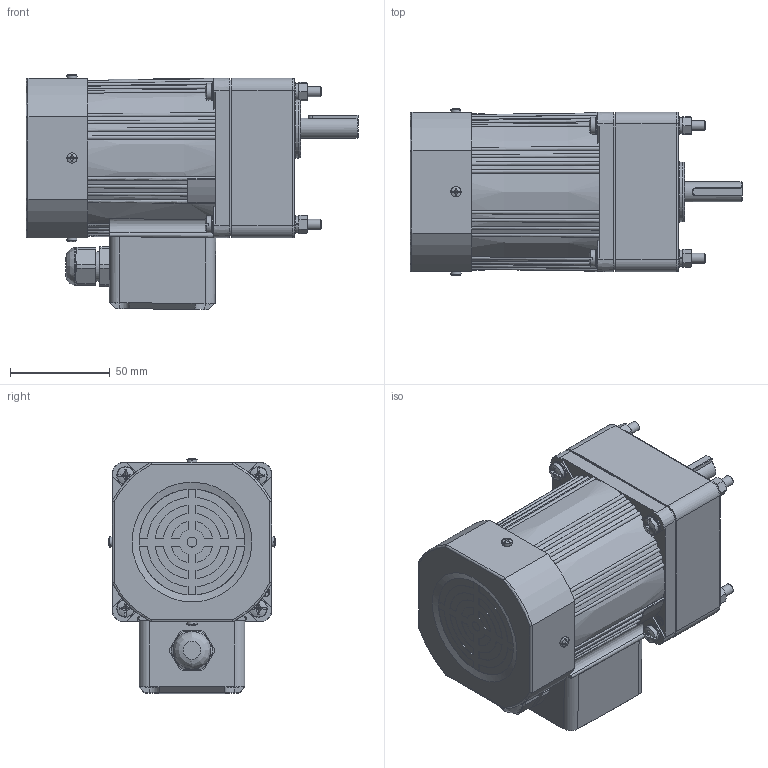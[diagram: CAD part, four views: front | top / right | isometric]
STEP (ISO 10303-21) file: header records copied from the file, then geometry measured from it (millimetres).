
FILE_DESCRIPTION(/* description */ (''),/* implementation_level */ '2;1');
FILE_NAME(/* name */ '4RK25-30GNC·TF-4GN3-20K-C·10T常规接线盒.stp',/* time_stamp */ '2025-04-13T14:23:47+08:00',/* author */ (''),/* organization */ (''),/* preprocessor_version */ 'ST-DEVELOPER v18.102',/* originating_system */ 'SIEMENS PLM Software NX 2027',/* authorisation */ '');
FILE_SCHEMA (('AP203_CONFIGURATION_CONTROLLED_3D_DESIGN_OF_MECHANICAL_PARTS_AND_ASSEMBLIES_MIM_LF { 1 0 10303 403 2 1 2}'));
Length unit declared in the file: millimetre
Products named in the file (1): 4RK25-30CC·F-4GN3-20K-C·10T_stp_objects
Bounding box: 166.3 x 83.8 x 117.79 mm (x, y, z)
Volume: 777382.2 mm3; surface area: 111564.9 mm2
Topology: 21 solids, 21 shells, 1117 faces, 2944 edges, 1901 vertices
Faces by surface type: plane 413, bspline 290, cylinder 214, cone 130, torus 50, sphere 20
Full cylindrical faces by diameter (mm): 4 x1, 4.351 x4, 4.4 x1, 4.5 x4, 4.6 x4, 5 x6, 5.1 x4, 5.3 x8, 5.849 x1, 6 x8, 6.5 x4, 8.5 x4, 9 x9, 10 x1, 10.5 x1, 12 x1, 15 x2, 16 x1, 18 x1, 19 x2, 26 x1, 30 x1, 56 x1, 67 x1, 75 x2, 77.5 x1
Entity records: 40527 total; most frequent: CARTESIAN_POINT 16313, ORIENTED_EDGE 5506, DIRECTION 3751, EDGE_CURVE 2753, VERTEX_POINT 1842, AXIS2_PLACEMENT_3D 1487, EDGE_LOOP 1393, B_SPLINE_CURVE_WITH_KNOTS 1315
